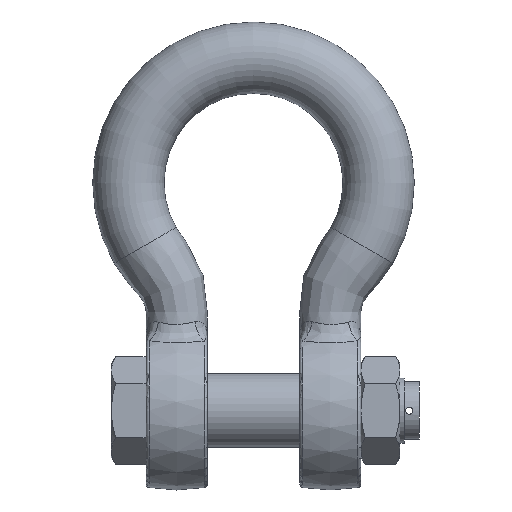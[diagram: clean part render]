
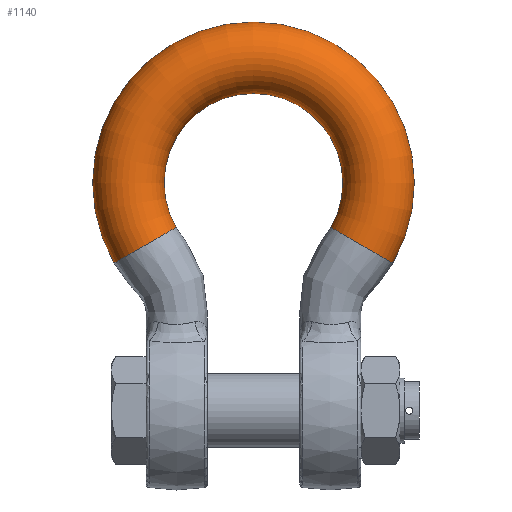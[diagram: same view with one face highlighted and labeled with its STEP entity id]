
A CAD part, top view. The second image highlights one B-rep face of the part: STEP entity #1140.
In plain terms, the highlighted toroidal (fillet/blend) face has major radius 173.5 mm and minor radius 49.5 mm.
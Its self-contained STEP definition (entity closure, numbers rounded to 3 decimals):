
#127=TOROIDAL_SURFACE('',#1291,173.5,49.5);
#220=CIRCLE('',#1292,49.5);
#221=CIRCLE('',#1293,49.5);
#222=CIRCLE('',#1294,124.);
#223=CIRCLE('',#1295,49.5);
#224=CIRCLE('',#1296,49.5);
#286=FACE_OUTER_BOUND('',#361,.T.);
#361=EDGE_LOOP('',(#904,#905,#906,#907,#908,#909));
#510=VERTEX_POINT('',#3772);
#511=VERTEX_POINT('',#3773);
#512=VERTEX_POINT('',#3776);
#513=VERTEX_POINT('',#3778);
#649=EDGE_CURVE('',#510,#511,#220,.T.);
#650=EDGE_CURVE('',#511,#510,#221,.T.);
#651=EDGE_CURVE('',#511,#512,#222,.T.);
#652=EDGE_CURVE('',#512,#513,#223,.T.);
#653=EDGE_CURVE('',#513,#512,#224,.T.);
#904=ORIENTED_EDGE('',*,*,#649,.F.);
#905=ORIENTED_EDGE('',*,*,#650,.F.);
#906=ORIENTED_EDGE('',*,*,#651,.T.);
#907=ORIENTED_EDGE('',*,*,#652,.T.);
#908=ORIENTED_EDGE('',*,*,#653,.T.);
#909=ORIENTED_EDGE('',*,*,#651,.F.);
#1140=ADVANCED_FACE('',(#286),#127,.T.);
#1291=AXIS2_PLACEMENT_3D('',#3771,#1478,#1479);
#1292=AXIS2_PLACEMENT_3D('',#3774,#1480,#1481);
#1293=AXIS2_PLACEMENT_3D('',#3775,#1482,#1483);
#1294=AXIS2_PLACEMENT_3D('',#3777,#1484,#1485);
#1295=AXIS2_PLACEMENT_3D('',#3779,#1486,#1487);
#1296=AXIS2_PLACEMENT_3D('',#3780,#1488,#1489);
#1478=DIRECTION('center_axis',(0.,0.,1.));
#1479=DIRECTION('ref_axis',(0.,1.,0.));
#1480=DIRECTION('center_axis',(0.5,-0.866,0.));
#1481=DIRECTION('ref_axis',(-0.866,-0.5,0.));
#1482=DIRECTION('center_axis',(0.5,-0.866,0.));
#1483=DIRECTION('ref_axis',(-0.866,-0.5,0.));
#1484=DIRECTION('center_axis',(0.,0.,-1.));
#1485=DIRECTION('ref_axis',(0.,1.,0.));
#1486=DIRECTION('center_axis',(0.5,0.866,0.));
#1487=DIRECTION('ref_axis',(0.866,-0.5,0.));
#1488=DIRECTION('center_axis',(0.5,0.866,0.));
#1489=DIRECTION('ref_axis',(0.866,-0.5,0.));
#3771=CARTESIAN_POINT('Origin',(0.,316.,0.));
#3772=CARTESIAN_POINT('',(-193.124,204.5,0.));
#3773=CARTESIAN_POINT('',(-107.387,254.,0.));
#3774=CARTESIAN_POINT('Origin',(-150.255,229.25,0.));
#3775=CARTESIAN_POINT('Origin',(-150.255,229.25,0.));
#3776=CARTESIAN_POINT('',(107.387,254.,0.));
#3777=CARTESIAN_POINT('Origin',(0.,316.,0.));
#3778=CARTESIAN_POINT('',(193.124,204.5,0.));
#3779=CARTESIAN_POINT('Origin',(150.255,229.25,0.));
#3780=CARTESIAN_POINT('Origin',(150.255,229.25,0.));
